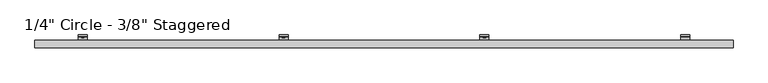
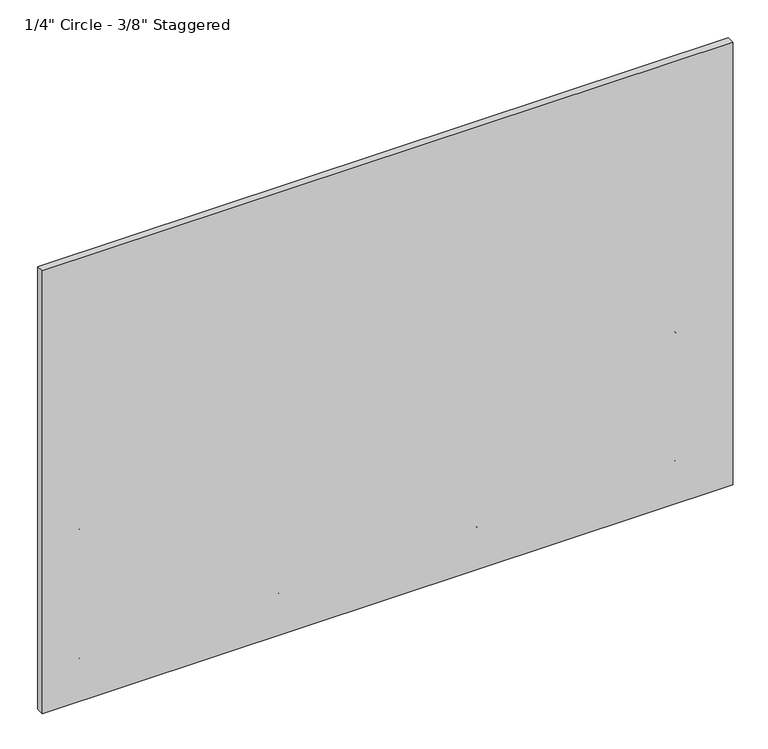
"""IFC4 building model written with IfcOpenShell, lengths in millimetres: plate geometry."""

from ifc_helpers import new_model, si_unit, point, frame, frame_2d, origin, place, context, project, spatial, polyline, circle_curve, trimmed, segment, composite_curve, outline, extrude, source, transform, mapped, element, save
from ifc_brep_helpers import plane_surface, cylinder_surface, revolved_surface, advanced_brep


def plate_3361f752(model_context):
    return source(origin(), model_context, "Body", "SolidModel", [
        advanced_brep(
        [(1259.453798, -47.625, 737.3555208), (1259.453798, -51.2819443, 729.6934884), (1259.453798, -89.5163624, 702.9214606), (1259.453798, -92.9330442, 706.3381424), (1259.453798, -54.3526876, 733.3523989), (1259.453798, -52.4002, 737.3555917), (1259.453798, -52.4002, 771.5482059), (1259.453798, -47.625, 771.5482059), (1297.553798, -47.625, 737.3555208), (1297.553798, -47.625, 771.5482059), (1297.553798, -52.4002, 771.5482059), (1297.553798, -52.4002, 737.3555917), (1297.553798, -54.3526876, 733.3523989), (1297.553798, -92.9330442, 706.3381424), (1297.553798, -89.5163624, 702.9214606), (1297.553798, -51.2819443, 729.6934884), (1285.2449869, -52.4002, 757.5029897), (1285.2449869, -52.4002, 751.1529897), (1269.0171267, -52.4002, 751.1529897), (1269.0171267, -52.4002, 757.5029897), (1285.2449869, -47.625, 751.1529897), (1285.2449869, -47.625, 757.5029897), (1269.0171267, -47.625, 757.5029897), (1269.0171267, -47.625, 751.1529897)],
        [
            (0, 1, circle_curve(frame((1259.453798, -57.4802202, 737.3555208), z_axis=(-1.0, 0.0, 0.0), x_axis=(0.0, -1.0, 0.0)), 9.8552202)),
            (1, 2),
            (2, 3),
            (3, 4),
            (4, 5, circle_curve(frame((1259.453798, -57.4803246, 737.3555917), z_axis=(1.0, 0.0, 0.0), x_axis=(0.0, -1.0, 0.0)), 5.0801246)),
            (5, 6),
            (6, 7),
            (7, 0),
            (8, 9),
            (9, 10),
            (10, 11),
            (11, 12, circle_curve(frame((1297.553798, -57.4803246, 737.3555917), z_axis=(-1.0, 0.0, 0.0), x_axis=(0.0, -1.0, 0.0)), 5.0801246)),
            (12, 13),
            (13, 14),
            (14, 15),
            (15, 8, circle_curve(frame((1297.553798, -57.4802202, 737.3555208), z_axis=(1.0, 0.0, 0.0), x_axis=(0.0, -1.0, 0.0)), 9.8552202)),
            (4, 12),
            (11, 5),
            (10, 6),
            (16, 17, circle_curve(frame((1285.2449869, -52.4002, 754.3279897), z_axis=(0.0, 1.0, 0.0), x_axis=(0.0, 0.0, -1.0)), 3.175)),
            (17, 18),
            (18, 19, circle_curve(frame((1269.0171267, -52.4002, 754.3279897), z_axis=(0.0, 1.0, 0.0), x_axis=(0.0, 0.0, -1.0)), 3.175)),
            (19, 16),
            (9, 7),
            (8, 0),
            (20, 21, circle_curve(frame((1285.2449869, -47.625, 754.3279897), z_axis=(0.0, -1.0, 0.0), x_axis=(0.0, 0.0, -1.0)), 3.175)),
            (21, 22),
            (22, 23, circle_curve(frame((1269.0171267, -47.625, 754.3279897), z_axis=(0.0, -1.0, 0.0), x_axis=(0.0, 0.0, -1.0)), 3.175)),
            (23, 20),
            (15, 1),
            (20, 17),
            (16, 21),
            (19, 22),
            (18, 23),
            (14, 2),
            (13, 3),
        ],
        [
            plane_surface(frame((1259.453798, -67.3354404, 737.3555208), z_axis=(-1.0, 0.0, 0.0), x_axis=(0.0, 0.0, 1.0))),
            plane_surface(frame((1297.553798, -67.3354404, 737.3555208), z_axis=(1.0, 0.0, 0.0), x_axis=(0.0, 0.0, -1.0))),
            revolved_surface(polyline([(1297.553798, -62.5604492, 737.3555917), (1259.453798, -62.5604492, 737.3555917)]), (1297.553798, -57.4803246, 737.3555917), (1.0, 0.0, 0.0)),
            plane_surface(frame((1259.453798, -52.4002, 737.3555917), z_axis=(0.0, -1.0, 0.0), x_axis=(1.0, 0.0, 0.0))),
            plane_surface(frame((1259.453798, -52.4002, 771.5482059), z_axis=(0.0, 0.0, 1.0), x_axis=(1.0, 0.0, 0.0))),
            plane_surface(frame((1259.453798, -47.625, 771.5482059), z_axis=(0.0, 1.0, 6.99569853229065e-12), x_axis=(1.0, 0.0, 0.0))),
            cylinder_surface(frame((1297.553798, -57.4802202, 737.3555208), z_axis=(-1.0, 0.0, 0.0), x_axis=(0.0, -1.0, 0.0)), 9.8552202),
            revolved_surface(polyline([(1285.2449869, -52.4002, 751.1529897), (1285.2449869, -47.625, 751.1529897)]), (1285.2449869, -25.6669948, 754.3279897), (0.0, -1.0, 0.0)),
            plane_surface(frame((1285.2449869, -86.677982, 757.5029897), z_axis=(0.0, 0.0, -1.0), x_axis=(0.0, 1.0, 0.0))),
            revolved_surface(polyline([(1269.0171267, -52.4002, 751.1529897), (1269.0171267, -47.625, 751.1529897)]), (1269.0171267, -25.6669948, 754.3279897), (0.0, -1.0, 0.0)),
            plane_surface(frame((1269.0171267, -86.677982, 751.1529897), z_axis=(-2.7237733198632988e-11, 0.0, 1.0), x_axis=(0.0, 1.0, 0.0))),
            plane_surface(frame((1259.453798, -51.2819443, 729.6934884), z_axis=(0.0, 0.5735764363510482, -0.8191520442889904), x_axis=(1.0, 0.0, 0.0))),
            plane_surface(frame((1259.453798, -89.5163624, 702.9214606), z_axis=(0.0, -0.7071067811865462, -0.7071067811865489), x_axis=(1.0, 0.0, 0.0))),
            plane_surface(frame((1259.453798, -92.9330442, 706.3381424), z_axis=(0.0, -0.5735764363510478, 0.8191520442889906), x_axis=(1.0, 0.0, 0.0))),
        ],
        [
            (0, [[1, 2, 3, 4, 5, 6, 7, 8]]),
            (1, [[9, 10, 11, 12, 13, 14, 15, 16]]),
            (2, [[-5, 17, -12, 18]]),
            (3, [[-6, -18, -11, 19], [20, 21, 22, 23]]),
            (4, [[-7, -19, -10, 24]]),
            (5, [[-8, -24, -9, 25], [26, 27, 28, 29]]),
            (6, [[-1, -25, -16, 30]]),
            (7, [[31, -20, 32, -26]]),
            (8, [[-32, -23, 33, -27]]),
            (9, [[-33, -22, 34, -28]]),
            (10, [[-31, -29, -34, -21]]),
            (11, [[-2, -30, -15, 35]]),
            (12, [[-3, -35, -14, 36]]),
            (13, [[-4, -36, -13, -17]]),
        ],
    ),
        extrude(outline(polyline([(754.5048329, 421.1499361), (750.1591204, 423.6589344), (750.1591204, 428.676931), (754.5048329, 431.1859292), (758.8505454, 428.676931), (758.8505454, 423.6589344), (754.5048329, 421.1499361)])), frame((0.0, -58.7607779, 0.0), z_axis=(0.0, 1.0, 0.0), x_axis=(0.0, 0.0, 1.0)), (0.0, 0.0, 1.0), 11.1357779),
        extrude(outline(composite_curve([segment(trimmed(circle_curve(frame_2d((754.5981399, 426.1679327)), 6.35), [point((754.5981399, 432.5179327))], [point((754.5981399, 419.8179327))], False, "CARTESIAN"), True, "CONTINUOUS"), segment(trimmed(circle_curve(frame_2d((754.5981399, 426.1679327)), 6.35), [point((754.5981399, 419.8179327))], [point((754.5981399, 432.5179327))], False, "CARTESIAN"), True, "CONTINUOUS")], self_intersect=False)), frame((0.0, -57.0817743, 0.0), z_axis=(0.0, 1.0, 0.0), x_axis=(0.0, 0.0, 1.0)), (0.0, 0.0, 1.0), 9.4567743),
        advanced_brep(
        [(407.1179327, -47.625, 737.3555208), (407.1179327, -51.2819443, 729.6934884), (407.1179327, -89.5163624, 702.9214606), (407.1179327, -92.9330442, 706.3381424), (407.1179327, -54.3526876, 733.3523989), (407.1179327, -52.4002, 737.3555917), (407.1179327, -52.4002, 771.5482059), (407.1179327, -47.625, 771.5482059), (445.2179327, -47.625, 737.3555208), (445.2179327, -47.625, 771.5482059), (445.2179327, -52.4002, 771.5482059), (445.2179327, -52.4002, 737.3555917), (445.2179327, -54.3526876, 733.3523989), (445.2179327, -92.9330442, 706.3381424), (445.2179327, -89.5163624, 702.9214606), (445.2179327, -51.2819443, 729.6934884), (432.9091216, -52.4002, 757.5029897), (432.9091216, -52.4002, 751.1529897), (416.6812614, -52.4002, 751.1529897), (416.6812614, -52.4002, 757.5029897), (432.9091216, -47.625, 751.1529897), (432.9091216, -47.625, 757.5029897), (416.6812614, -47.625, 757.5029897), (416.6812614, -47.625, 751.1529897)],
        [
            (0, 1, circle_curve(frame((407.1179327, -57.4802202, 737.3555208), z_axis=(-1.0, 0.0, 0.0), x_axis=(0.0, -1.0, 0.0)), 9.8552202)),
            (1, 2),
            (2, 3),
            (3, 4),
            (4, 5, circle_curve(frame((407.1179327, -57.4803246, 737.3555917), z_axis=(1.0, 0.0, 0.0), x_axis=(0.0, -1.0, 0.0)), 5.0801246)),
            (5, 6),
            (6, 7),
            (7, 0),
            (8, 9),
            (9, 10),
            (10, 11),
            (11, 12, circle_curve(frame((445.2179327, -57.4803246, 737.3555917), z_axis=(-1.0, 0.0, 0.0), x_axis=(0.0, -1.0, 0.0)), 5.0801246)),
            (12, 13),
            (13, 14),
            (14, 15),
            (15, 8, circle_curve(frame((445.2179327, -57.4802202, 737.3555208), z_axis=(1.0, 0.0, 0.0), x_axis=(0.0, -1.0, 0.0)), 9.8552202)),
            (4, 12),
            (11, 5),
            (10, 6),
            (16, 17, circle_curve(frame((432.9091216, -52.4002, 754.3279897), z_axis=(0.0, 1.0, 0.0), x_axis=(0.0, 0.0, -1.0)), 3.175)),
            (17, 18),
            (18, 19, circle_curve(frame((416.6812614, -52.4002, 754.3279897), z_axis=(0.0, 1.0, 0.0), x_axis=(0.0, 0.0, -1.0)), 3.175)),
            (19, 16),
            (9, 7),
            (8, 0),
            (20, 21, circle_curve(frame((432.9091216, -47.625, 754.3279897), z_axis=(0.0, -1.0, 0.0), x_axis=(0.0, 0.0, -1.0)), 3.175)),
            (21, 22),
            (22, 23, circle_curve(frame((416.6812614, -47.625, 754.3279897), z_axis=(0.0, -1.0, 0.0), x_axis=(0.0, 0.0, -1.0)), 3.175)),
            (23, 20),
            (15, 1),
            (20, 17),
            (16, 21),
            (19, 22),
            (18, 23),
            (14, 2),
            (13, 3),
        ],
        [
            plane_surface(frame((407.1179327, -67.3354404, 737.3555208), z_axis=(-1.0, 0.0, 0.0), x_axis=(0.0, 0.0, 1.0))),
            plane_surface(frame((445.2179327, -67.3354404, 737.3555208), z_axis=(1.0, 0.0, 0.0), x_axis=(0.0, 0.0, -1.0))),
            revolved_surface(polyline([(445.2179327, -62.5604492, 737.3555917), (407.1179327, -62.5604492, 737.3555917)]), (445.2179327, -57.4803246, 737.3555917), (1.0, 0.0, 0.0)),
            plane_surface(frame((407.1179327, -52.4002, 737.3555917), z_axis=(0.0, -1.0, 0.0), x_axis=(1.0, 0.0, 0.0))),
            plane_surface(frame((407.1179327, -52.4002, 771.5482059), z_axis=(0.0, 0.0, 1.0), x_axis=(1.0, 0.0, 0.0))),
            plane_surface(frame((407.1179327, -47.625, 771.5482059), z_axis=(0.0, 1.0, 6.99569853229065e-12), x_axis=(1.0, 0.0, 0.0))),
            cylinder_surface(frame((445.2179327, -57.4802202, 737.3555208), z_axis=(-1.0, 0.0, 0.0), x_axis=(0.0, -1.0, 0.0)), 9.8552202),
            revolved_surface(polyline([(432.9091216, -52.4002, 751.1529897), (432.9091216, -47.625, 751.1529897)]), (432.9091216, -25.6669948, 754.3279897), (0.0, -1.0, 0.0)),
            plane_surface(frame((432.9091216, -86.677982, 757.5029897), z_axis=(0.0, 0.0, -1.0), x_axis=(0.0, 1.0, 0.0))),
            revolved_surface(polyline([(416.6812614, -52.4002, 751.1529897), (416.6812614, -47.625, 751.1529897)]), (416.6812614, -25.6669948, 754.3279897), (0.0, -1.0, 0.0)),
            plane_surface(frame((416.6812614, -86.677982, 751.1529897), z_axis=(-2.7237733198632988e-11, 0.0, 1.0), x_axis=(0.0, 1.0, 0.0))),
            plane_surface(frame((407.1179327, -51.2819443, 729.6934884), z_axis=(0.0, 0.5735764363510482, -0.8191520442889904), x_axis=(1.0, 0.0, 0.0))),
            plane_surface(frame((407.1179327, -89.5163624, 702.9214606), z_axis=(0.0, -0.7071067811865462, -0.7071067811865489), x_axis=(1.0, 0.0, 0.0))),
            plane_surface(frame((407.1179327, -92.9330442, 706.3381424), z_axis=(0.0, -0.5735764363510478, 0.8191520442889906), x_axis=(1.0, 0.0, 0.0))),
        ],
        [
            (0, [[1, 2, 3, 4, 5, 6, 7, 8]]),
            (1, [[9, 10, 11, 12, 13, 14, 15, 16]]),
            (2, [[-5, 17, -12, 18]]),
            (3, [[-6, -18, -11, 19], [20, 21, 22, 23]]),
            (4, [[-7, -19, -10, 24]]),
            (5, [[-8, -24, -9, 25], [26, 27, 28, 29]]),
            (6, [[-1, -25, -16, 30]]),
            (7, [[31, -20, 32, -26]]),
            (8, [[-32, -23, 33, -27]]),
            (9, [[-33, -22, 34, -28]]),
            (10, [[-31, -29, -34, -21]]),
            (11, [[-2, -30, -15, 35]]),
            (12, [[-3, -35, -14, 36]]),
            (13, [[-4, -36, -13, -17]]),
        ],
    ),
        extrude(outline(polyline([(754.5048329, -431.1859292), (750.1591204, -428.676931), (750.1591204, -423.6589344), (754.5048329, -421.1499361), (758.8505454, -423.6589344), (758.8505454, -428.676931), (754.5048329, -431.1859292)])), frame((0.0, -58.7607779, 0.0), z_axis=(0.0, 1.0, 0.0), x_axis=(0.0, 0.0, 1.0)), (0.0, 0.0, 1.0), 11.1357779),
        extrude(outline(composite_curve([segment(trimmed(circle_curve(frame_2d((754.5981399, -426.1679327)), 6.35), [point((754.5981399, -419.8179327))], [point((754.5981399, -432.5179327))], False, "CARTESIAN"), True, "CONTINUOUS"), segment(trimmed(circle_curve(frame_2d((754.5981399, -426.1679327)), 6.35), [point((754.5981399, -432.5179327))], [point((754.5981399, -419.8179327))], False, "CARTESIAN"), True, "CONTINUOUS")], self_intersect=False)), frame((0.0, -57.0817743, 0.0), z_axis=(0.0, 1.0, 0.0), x_axis=(0.0, 0.0, 1.0)), (0.0, 0.0, 1.0), 9.4567743),
        advanced_brep(
        [(-445.2179327, -47.625, 737.3555208), (-445.2179327, -51.2819443, 729.6934884), (-445.2179327, -89.5163624, 702.9214606), (-445.2179327, -92.9330442, 706.3381424), (-445.2179327, -54.3526876, 733.3523989), (-445.2179327, -52.4002, 737.3555917), (-445.2179327, -52.4002, 771.5482059), (-445.2179327, -47.625, 771.5482059), (-407.1179327, -47.625, 737.3555208), (-407.1179327, -47.625, 771.5482059), (-407.1179327, -52.4002, 771.5482059), (-407.1179327, -52.4002, 737.3555917), (-407.1179327, -54.3526876, 733.3523989), (-407.1179327, -92.9330442, 706.3381424), (-407.1179327, -89.5163624, 702.9214606), (-407.1179327, -51.2819443, 729.6934884), (-419.4267438, -52.4002, 757.5029897), (-419.4267438, -52.4002, 751.1529897), (-435.654604, -52.4002, 751.1529897), (-435.654604, -52.4002, 757.5029897), (-419.4267438, -47.625, 751.1529897), (-419.4267438, -47.625, 757.5029897), (-435.654604, -47.625, 757.5029897), (-435.654604, -47.625, 751.1529897)],
        [
            (0, 1, circle_curve(frame((-445.2179327, -57.4802202, 737.3555208), z_axis=(-1.0, 0.0, 0.0), x_axis=(0.0, -1.0, 0.0)), 9.8552202)),
            (1, 2),
            (2, 3),
            (3, 4),
            (4, 5, circle_curve(frame((-445.2179327, -57.4803246, 737.3555917), z_axis=(1.0, 0.0, 0.0), x_axis=(0.0, -1.0, 0.0)), 5.0801246)),
            (5, 6),
            (6, 7),
            (7, 0),
            (8, 9),
            (9, 10),
            (10, 11),
            (11, 12, circle_curve(frame((-407.1179327, -57.4803246, 737.3555917), z_axis=(-1.0, 0.0, 0.0), x_axis=(0.0, -1.0, 0.0)), 5.0801246)),
            (12, 13),
            (13, 14),
            (14, 15),
            (15, 8, circle_curve(frame((-407.1179327, -57.4802202, 737.3555208), z_axis=(1.0, 0.0, 0.0), x_axis=(0.0, -1.0, 0.0)), 9.8552202)),
            (4, 12),
            (11, 5),
            (10, 6),
            (16, 17, circle_curve(frame((-419.4267438, -52.4002, 754.3279897), z_axis=(0.0, 1.0, 0.0), x_axis=(0.0, 0.0, -1.0)), 3.175)),
            (17, 18),
            (18, 19, circle_curve(frame((-435.654604, -52.4002, 754.3279897), z_axis=(0.0, 1.0, 0.0), x_axis=(0.0, 0.0, -1.0)), 3.175)),
            (19, 16),
            (9, 7),
            (8, 0),
            (20, 21, circle_curve(frame((-419.4267438, -47.625, 754.3279897), z_axis=(0.0, -1.0, 0.0), x_axis=(0.0, 0.0, -1.0)), 3.175)),
            (21, 22),
            (22, 23, circle_curve(frame((-435.654604, -47.625, 754.3279897), z_axis=(0.0, -1.0, 0.0), x_axis=(0.0, 0.0, -1.0)), 3.175)),
            (23, 20),
            (15, 1),
            (20, 17),
            (16, 21),
            (19, 22),
            (18, 23),
            (14, 2),
            (13, 3),
        ],
        [
            plane_surface(frame((-445.2179327, -67.3354404, 737.3555208), z_axis=(-1.0, 0.0, 0.0), x_axis=(0.0, 0.0, 1.0))),
            plane_surface(frame((-407.1179327, -67.3354404, 737.3555208), z_axis=(1.0, 0.0, 0.0), x_axis=(0.0, 0.0, -1.0))),
            revolved_surface(polyline([(-407.1179327, -62.5604492, 737.3555917), (-445.2179327, -62.5604492, 737.3555917)]), (-407.1179327, -57.4803246, 737.3555917), (1.0, 0.0, 0.0)),
            plane_surface(frame((-445.2179327, -52.4002, 737.3555917), z_axis=(0.0, -1.0, 0.0), x_axis=(1.0, 0.0, 0.0))),
            plane_surface(frame((-445.2179327, -52.4002, 771.5482059), z_axis=(0.0, 0.0, 1.0), x_axis=(1.0, 0.0, 0.0))),
            plane_surface(frame((-445.2179327, -47.625, 771.5482059), z_axis=(0.0, 1.0, 6.99569853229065e-12), x_axis=(1.0, 0.0, 0.0))),
            cylinder_surface(frame((-407.1179327, -57.4802202, 737.3555208), z_axis=(-1.0, 0.0, 0.0), x_axis=(0.0, -1.0, 0.0)), 9.8552202),
            revolved_surface(polyline([(-419.4267438, -52.4002, 751.1529897), (-419.4267438, -47.625, 751.1529897)]), (-419.4267438, -25.6669948, 754.3279897), (0.0, -1.0, 0.0)),
            plane_surface(frame((-419.4267438, -86.677982, 757.5029897), z_axis=(0.0, 0.0, -1.0), x_axis=(0.0, 1.0, 0.0))),
            revolved_surface(polyline([(-435.654604, -52.4002, 751.1529897), (-435.654604, -47.625, 751.1529897)]), (-435.654604, -25.6669948, 754.3279897), (0.0, -1.0, 0.0)),
            plane_surface(frame((-435.654604, -86.677982, 751.1529897), z_axis=(-2.7237733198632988e-11, 0.0, 1.0), x_axis=(0.0, 1.0, 0.0))),
            plane_surface(frame((-445.2179327, -51.2819443, 729.6934884), z_axis=(0.0, 0.5735764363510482, -0.8191520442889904), x_axis=(1.0, 0.0, 0.0))),
            plane_surface(frame((-445.2179327, -89.5163624, 702.9214606), z_axis=(0.0, -0.7071067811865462, -0.7071067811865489), x_axis=(1.0, 0.0, 0.0))),
            plane_surface(frame((-445.2179327, -92.9330442, 706.3381424), z_axis=(0.0, -0.5735764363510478, 0.8191520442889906), x_axis=(1.0, 0.0, 0.0))),
        ],
        [
            (0, [[1, 2, 3, 4, 5, 6, 7, 8]]),
            (1, [[9, 10, 11, 12, 13, 14, 15, 16]]),
            (2, [[-5, 17, -12, 18]]),
            (3, [[-6, -18, -11, 19], [20, 21, 22, 23]]),
            (4, [[-7, -19, -10, 24]]),
            (5, [[-8, -24, -9, 25], [26, 27, 28, 29]]),
            (6, [[-1, -25, -16, 30]]),
            (7, [[31, -20, 32, -26]]),
            (8, [[-32, -23, 33, -27]]),
            (9, [[-33, -22, 34, -28]]),
            (10, [[-31, -29, -34, -21]]),
            (11, [[-2, -30, -15, 35]]),
            (12, [[-3, -35, -14, 36]]),
            (13, [[-4, -36, -13, -17]]),
        ],
    ),
        extrude(outline(polyline([(754.5048329, -1283.5217946), (750.1591204, -1281.0127963), (750.1591204, -1275.9947997), (754.5048329, -1273.4858014), (758.8505454, -1275.9947997), (758.8505454, -1281.0127963), (754.5048329, -1283.5217946)])), frame((0.0, -58.7607779, 0.0), z_axis=(0.0, 1.0, 0.0), x_axis=(0.0, 0.0, 1.0)), (0.0, 0.0, 1.0), 11.1357779),
        extrude(outline(composite_curve([segment(trimmed(circle_curve(frame_2d((754.5981399, -1278.503798)), 6.35), [point((754.5981399, -1272.153798))], [point((754.5981399, -1284.853798))], False, "CARTESIAN"), True, "CONTINUOUS"), segment(trimmed(circle_curve(frame_2d((754.5981399, -1278.503798)), 6.35), [point((754.5981399, -1284.853798))], [point((754.5981399, -1272.153798))], False, "CARTESIAN"), True, "CONTINUOUS")], self_intersect=False)), frame((0.0, -57.0817743, 0.0), z_axis=(0.0, 1.0, 0.0), x_axis=(0.0, 0.0, 1.0)), (0.0, 0.0, 1.0), 9.4567743),
        advanced_brep(
        [(-1297.553798, -47.625, 737.3555208), (-1297.553798, -51.2819443, 729.6934884), (-1297.553798, -89.5163624, 702.9214606), (-1297.553798, -92.9330442, 706.3381424), (-1297.553798, -54.3526876, 733.3523989), (-1297.553798, -52.4002, 737.3555917), (-1297.553798, -52.4002, 771.5482059), (-1297.553798, -47.625, 771.5482059), (-1259.453798, -47.625, 737.3555208), (-1259.453798, -47.625, 771.5482059), (-1259.453798, -52.4002, 771.5482059), (-1259.453798, -52.4002, 737.3555917), (-1259.453798, -54.3526876, 733.3523989), (-1259.453798, -92.9330442, 706.3381424), (-1259.453798, -89.5163624, 702.9214606), (-1259.453798, -51.2819443, 729.6934884), (-1271.7626091, -52.4002, 757.5029897), (-1271.7626091, -52.4002, 751.1529897), (-1287.9904693, -52.4002, 751.1529897), (-1287.9904693, -52.4002, 757.5029897), (-1271.7626091, -47.625, 751.1529897), (-1271.7626091, -47.625, 757.5029897), (-1287.9904693, -47.625, 757.5029897), (-1287.9904693, -47.625, 751.1529897)],
        [
            (0, 1, circle_curve(frame((-1297.553798, -57.4802202, 737.3555208), z_axis=(-1.0, 0.0, 0.0), x_axis=(0.0, -1.0, 0.0)), 9.8552202)),
            (1, 2),
            (2, 3),
            (3, 4),
            (4, 5, circle_curve(frame((-1297.553798, -57.4803246, 737.3555917), z_axis=(1.0, 0.0, 0.0), x_axis=(0.0, -1.0, 0.0)), 5.0801246)),
            (5, 6),
            (6, 7),
            (7, 0),
            (8, 9),
            (9, 10),
            (10, 11),
            (11, 12, circle_curve(frame((-1259.453798, -57.4803246, 737.3555917), z_axis=(-1.0, 0.0, 0.0), x_axis=(0.0, -1.0, 0.0)), 5.0801246)),
            (12, 13),
            (13, 14),
            (14, 15),
            (15, 8, circle_curve(frame((-1259.453798, -57.4802202, 737.3555208), z_axis=(1.0, 0.0, 0.0), x_axis=(0.0, -1.0, 0.0)), 9.8552202)),
            (4, 12),
            (11, 5),
            (10, 6),
            (16, 17, circle_curve(frame((-1271.7626091, -52.4002, 754.3279897), z_axis=(0.0, 1.0, 0.0), x_axis=(0.0, 0.0, -1.0)), 3.175)),
            (17, 18),
            (18, 19, circle_curve(frame((-1287.9904693, -52.4002, 754.3279897), z_axis=(0.0, 1.0, 0.0), x_axis=(0.0, 0.0, -1.0)), 3.175)),
            (19, 16),
            (9, 7),
            (8, 0),
            (20, 21, circle_curve(frame((-1271.7626091, -47.625, 754.3279897), z_axis=(0.0, -1.0, 0.0), x_axis=(0.0, 0.0, -1.0)), 3.175)),
            (21, 22),
            (22, 23, circle_curve(frame((-1287.9904693, -47.625, 754.3279897), z_axis=(0.0, -1.0, 0.0), x_axis=(0.0, 0.0, -1.0)), 3.175)),
            (23, 20),
            (15, 1),
            (20, 17),
            (16, 21),
            (19, 22),
            (18, 23),
            (14, 2),
            (13, 3),
        ],
        [
            plane_surface(frame((-1297.553798, -67.3354404, 737.3555208), z_axis=(-1.0, 0.0, 0.0), x_axis=(0.0, 0.0, 1.0))),
            plane_surface(frame((-1259.453798, -67.3354404, 737.3555208), z_axis=(1.0, 0.0, 0.0), x_axis=(0.0, 0.0, -1.0))),
            revolved_surface(polyline([(-1259.453798, -62.5604492, 737.3555917), (-1297.553798, -62.5604492, 737.3555917)]), (-1259.453798, -57.4803246, 737.3555917), (1.0, 0.0, 0.0)),
            plane_surface(frame((-1297.553798, -52.4002, 737.3555917), z_axis=(0.0, -1.0, 0.0), x_axis=(1.0, 0.0, 0.0))),
            plane_surface(frame((-1297.553798, -52.4002, 771.5482059), z_axis=(0.0, 0.0, 1.0), x_axis=(1.0, 0.0, 0.0))),
            plane_surface(frame((-1297.553798, -47.625, 771.5482059), z_axis=(0.0, 1.0, 6.99569853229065e-12), x_axis=(1.0, 0.0, 0.0))),
            cylinder_surface(frame((-1259.453798, -57.4802202, 737.3555208), z_axis=(-1.0, 0.0, 0.0), x_axis=(0.0, -1.0, 0.0)), 9.8552202),
            revolved_surface(polyline([(-1271.7626091, -52.4002, 751.1529897), (-1271.7626091, -47.625, 751.1529897)]), (-1271.7626091, -25.6669948, 754.3279897), (0.0, -1.0, 0.0)),
            plane_surface(frame((-1271.7626091, -86.677982, 757.5029897), z_axis=(0.0, 0.0, -1.0), x_axis=(0.0, 1.0, 0.0))),
            revolved_surface(polyline([(-1287.9904693, -52.4002, 751.1529897), (-1287.9904693, -47.625, 751.1529897)]), (-1287.9904693, -25.6669948, 754.3279897), (0.0, -1.0, 0.0)),
            plane_surface(frame((-1287.9904693, -86.677982, 751.1529897), z_axis=(-2.7237733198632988e-11, 0.0, 1.0), x_axis=(0.0, 1.0, 0.0))),
            plane_surface(frame((-1297.553798, -51.2819443, 729.6934884), z_axis=(0.0, 0.5735764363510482, -0.8191520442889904), x_axis=(1.0, 0.0, 0.0))),
            plane_surface(frame((-1297.553798, -89.5163624, 702.9214606), z_axis=(0.0, -0.7071067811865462, -0.7071067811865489), x_axis=(1.0, 0.0, 0.0))),
            plane_surface(frame((-1297.553798, -92.9330442, 706.3381424), z_axis=(0.0, -0.5735764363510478, 0.8191520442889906), x_axis=(1.0, 0.0, 0.0))),
        ],
        [
            (0, [[1, 2, 3, 4, 5, 6, 7, 8]]),
            (1, [[9, 10, 11, 12, 13, 14, 15, 16]]),
            (2, [[-5, 17, -12, 18]]),
            (3, [[-6, -18, -11, 19], [20, 21, 22, 23]]),
            (4, [[-7, -19, -10, 24]]),
            (5, [[-8, -24, -9, 25], [26, 27, 28, 29]]),
            (6, [[-1, -25, -16, 30]]),
            (7, [[31, -20, 32, -26]]),
            (8, [[-32, -23, 33, -27]]),
            (9, [[-33, -22, 34, -28]]),
            (10, [[-31, -29, -34, -21]]),
            (11, [[-2, -30, -15, 35]]),
            (12, [[-3, -35, -14, 36]]),
            (13, [[-4, -36, -13, -17]]),
        ],
    ),
        extrude(outline(polyline([(169.8795323, 1273.4858014), (165.5338197, 1275.9947997), (165.5338197, 1281.0127963), (169.8795323, 1283.5217946), (174.2252448, 1281.0127963), (174.2252448, 1275.9947997), (169.8795323, 1273.4858014)])), frame((0.0, -58.7607779, 0.0), z_axis=(0.0, 1.0, 0.0), x_axis=(0.0, 0.0, 1.0)), (0.0, 0.0, 1.0), 11.1357779),
        extrude(outline(composite_curve([segment(trimmed(circle_curve(frame_2d((169.9728392, 1278.503798)), 6.35), [point((169.9728392, 1284.853798))], [point((169.9728392, 1272.153798))], False, "CARTESIAN"), True, "CONTINUOUS"), segment(trimmed(circle_curve(frame_2d((169.9728392, 1278.503798)), 6.35), [point((169.9728392, 1272.153798))], [point((169.9728392, 1284.853798))], False, "CARTESIAN"), True, "CONTINUOUS")], self_intersect=False)), frame((0.0, -57.0817743, 0.0), z_axis=(0.0, 1.0, 0.0), x_axis=(0.0, 0.0, 1.0)), (0.0, 0.0, 1.0), 9.4567743),
        advanced_brep(
        [(1259.453798, -47.625, 152.7302202), (1259.453798, -51.2819443, 145.0681877), (1259.453798, -89.5163624, 118.29616), (1259.453798, -92.9330442, 121.7128418), (1259.453798, -54.3526876, 148.7270983), (1259.453798, -52.4002, 152.7302911), (1259.453798, -52.4002, 186.9229053), (1259.453798, -47.625, 186.9229053), (1297.553798, -47.625, 152.7302202), (1297.553798, -47.625, 186.9229053), (1297.553798, -52.4002, 186.9229053), (1297.553798, -52.4002, 152.7302911), (1297.553798, -54.3526876, 148.7270983), (1297.553798, -92.9330442, 121.7128418), (1297.553798, -89.5163624, 118.29616), (1297.553798, -51.2819443, 145.0681877), (1285.2449869, -52.4002, 172.8776891), (1285.2449869, -52.4002, 166.5276891), (1269.0171267, -52.4002, 166.5276891), (1269.0171267, -52.4002, 172.8776891), (1285.2449869, -47.625, 166.5276891), (1285.2449869, -47.625, 172.8776891), (1269.0171267, -47.625, 172.8776891), (1269.0171267, -47.625, 166.5276891)],
        [
            (0, 1, circle_curve(frame((1259.453798, -57.4802202, 152.7302202), z_axis=(-1.0, 0.0, 0.0), x_axis=(0.0, -1.0, 0.0)), 9.8552202)),
            (1, 2),
            (2, 3),
            (3, 4),
            (4, 5, circle_curve(frame((1259.453798, -57.4803246, 152.7302911), z_axis=(1.0, 0.0, 0.0), x_axis=(0.0, -1.0, 0.0)), 5.0801246)),
            (5, 6),
            (6, 7),
            (7, 0),
            (8, 9),
            (9, 10),
            (10, 11),
            (11, 12, circle_curve(frame((1297.553798, -57.4803246, 152.7302911), z_axis=(-1.0, 0.0, 0.0), x_axis=(0.0, -1.0, 0.0)), 5.0801246)),
            (12, 13),
            (13, 14),
            (14, 15),
            (15, 8, circle_curve(frame((1297.553798, -57.4802202, 152.7302202), z_axis=(1.0, 0.0, 0.0), x_axis=(0.0, -1.0, 0.0)), 9.8552202)),
            (4, 12),
            (11, 5),
            (10, 6),
            (16, 17, circle_curve(frame((1285.2449869, -52.4002, 169.7026891), z_axis=(0.0, 1.0, 0.0), x_axis=(0.0, 0.0, -1.0)), 3.175)),
            (17, 18),
            (18, 19, circle_curve(frame((1269.0171267, -52.4002, 169.7026891), z_axis=(0.0, 1.0, 0.0), x_axis=(0.0, 0.0, -1.0)), 3.175)),
            (19, 16),
            (9, 7),
            (8, 0),
            (20, 21, circle_curve(frame((1285.2449869, -47.625, 169.7026891), z_axis=(0.0, -1.0, 0.0), x_axis=(0.0, 0.0, -1.0)), 3.175)),
            (21, 22),
            (22, 23, circle_curve(frame((1269.0171267, -47.625, 169.7026891), z_axis=(0.0, -1.0, 0.0), x_axis=(0.0, 0.0, -1.0)), 3.175)),
            (23, 20),
            (15, 1),
            (20, 17),
            (16, 21),
            (19, 22),
            (18, 23),
            (14, 2),
            (13, 3),
        ],
        [
            plane_surface(frame((1259.453798, -67.3354404, 152.7302202), z_axis=(-1.0, 0.0, 0.0), x_axis=(0.0, 0.0, 1.0))),
            plane_surface(frame((1297.553798, -67.3354404, 152.7302202), z_axis=(1.0, 0.0, 0.0), x_axis=(0.0, 0.0, -1.0))),
            revolved_surface(polyline([(1297.553798, -62.5604492, 152.7302911), (1259.453798, -62.5604492, 152.7302911)]), (1297.553798, -57.4803246, 152.7302911), (1.0, 0.0, 0.0)),
            plane_surface(frame((1259.453798, -52.4002, 152.7302911), z_axis=(0.0, -1.0, 0.0), x_axis=(1.0, 0.0, 0.0))),
            plane_surface(frame((1259.453798, -52.4002, 186.9229053), z_axis=(0.0, 0.0, 1.0), x_axis=(1.0, 0.0, 0.0))),
            plane_surface(frame((1259.453798, -47.625, 186.9229053), z_axis=(0.0, 1.0, 6.99569853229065e-12), x_axis=(1.0, 0.0, 0.0))),
            cylinder_surface(frame((1297.553798, -57.4802202, 152.7302202), z_axis=(-1.0, 0.0, 0.0), x_axis=(0.0, -1.0, 0.0)), 9.8552202),
            revolved_surface(polyline([(1285.2449869, -52.4002, 166.52768909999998), (1285.2449869, -47.625, 166.52768909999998)]), (1285.2449869, -25.6669948, 169.7026891), (0.0, -1.0, 0.0)),
            plane_surface(frame((1285.2449869, -86.677982, 172.8776891), z_axis=(0.0, 0.0, -1.0), x_axis=(0.0, 1.0, 0.0))),
            revolved_surface(polyline([(1269.0171267, -52.4002, 166.52768909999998), (1269.0171267, -47.625, 166.52768909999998)]), (1269.0171267, -25.6669948, 169.7026891), (0.0, -1.0, 0.0)),
            plane_surface(frame((1269.0171267, -86.677982, 166.5276891), z_axis=(-2.723774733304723e-11, 0.0, 1.0), x_axis=(0.0, 1.0, 0.0))),
            plane_surface(frame((1259.453798, -51.2819443, 145.0681877), z_axis=(0.0, 0.5735764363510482, -0.8191520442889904), x_axis=(1.0, 0.0, 0.0))),
            plane_surface(frame((1259.453798, -89.5163624, 118.29616), z_axis=(0.0, -0.7071067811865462, -0.7071067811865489), x_axis=(1.0, 0.0, 0.0))),
            plane_surface(frame((1259.453798, -92.9330442, 121.7128418), z_axis=(0.0, -0.5735764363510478, 0.8191520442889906), x_axis=(1.0, 0.0, 0.0))),
        ],
        [
            (0, [[1, 2, 3, 4, 5, 6, 7, 8]]),
            (1, [[9, 10, 11, 12, 13, 14, 15, 16]]),
            (2, [[-5, 17, -12, 18]]),
            (3, [[-6, -18, -11, 19], [20, 21, 22, 23]]),
            (4, [[-7, -19, -10, 24]]),
            (5, [[-8, -24, -9, 25], [26, 27, 28, 29]]),
            (6, [[-1, -25, -16, 30]]),
            (7, [[31, -20, 32, -26]]),
            (8, [[-32, -23, 33, -27]]),
            (9, [[-33, -22, 34, -28]]),
            (10, [[-31, -29, -34, -21]]),
            (11, [[-2, -30, -15, 35]]),
            (12, [[-3, -35, -14, 36]]),
            (13, [[-4, -36, -13, -17]]),
        ],
    ),
        extrude(outline(polyline([(169.8795323, 421.1499361), (165.5338197, 423.6589344), (165.5338197, 428.676931), (169.8795323, 431.1859292), (174.2252448, 428.676931), (174.2252448, 423.6589344), (169.8795323, 421.1499361)])), frame((0.0, -58.7607779, 0.0), z_axis=(0.0, 1.0, 0.0), x_axis=(0.0, 0.0, 1.0)), (0.0, 0.0, 1.0), 11.1357779),
        extrude(outline(composite_curve([segment(trimmed(circle_curve(frame_2d((169.9728392, 426.1679327)), 6.35), [point((169.9728392, 432.5179327))], [point((169.9728392, 419.8179327))], False, "CARTESIAN"), True, "CONTINUOUS"), segment(trimmed(circle_curve(frame_2d((169.9728392, 426.1679327)), 6.35), [point((169.9728392, 419.8179327))], [point((169.9728392, 432.5179327))], False, "CARTESIAN"), True, "CONTINUOUS")], self_intersect=False)), frame((0.0, -57.0817743, 0.0), z_axis=(0.0, 1.0, 0.0), x_axis=(0.0, 0.0, 1.0)), (0.0, 0.0, 1.0), 9.4567743),
        advanced_brep(
        [(407.1179327, -47.625, 152.7302202), (407.1179327, -51.2819443, 145.0681877), (407.1179327, -89.5163624, 118.29616), (407.1179327, -92.9330442, 121.7128418), (407.1179327, -54.3526876, 148.7270983), (407.1179327, -52.4002, 152.7302911), (407.1179327, -52.4002, 186.9229053), (407.1179327, -47.625, 186.9229053), (445.2179327, -47.625, 152.7302202), (445.2179327, -47.625, 186.9229053), (445.2179327, -52.4002, 186.9229053), (445.2179327, -52.4002, 152.7302911), (445.2179327, -54.3526876, 148.7270983), (445.2179327, -92.9330442, 121.7128418), (445.2179327, -89.5163624, 118.29616), (445.2179327, -51.2819443, 145.0681877), (432.9091216, -52.4002, 172.8776891), (432.9091216, -52.4002, 166.5276891), (416.6812614, -52.4002, 166.5276891), (416.6812614, -52.4002, 172.8776891), (432.9091216, -47.625, 166.5276891), (432.9091216, -47.625, 172.8776891), (416.6812614, -47.625, 172.8776891), (416.6812614, -47.625, 166.5276891)],
        [
            (0, 1, circle_curve(frame((407.1179327, -57.4802202, 152.7302202), z_axis=(-1.0, 0.0, 0.0), x_axis=(0.0, -1.0, 0.0)), 9.8552202)),
            (1, 2),
            (2, 3),
            (3, 4),
            (4, 5, circle_curve(frame((407.1179327, -57.4803246, 152.7302911), z_axis=(1.0, 0.0, 0.0), x_axis=(0.0, -1.0, 0.0)), 5.0801246)),
            (5, 6),
            (6, 7),
            (7, 0),
            (8, 9),
            (9, 10),
            (10, 11),
            (11, 12, circle_curve(frame((445.2179327, -57.4803246, 152.7302911), z_axis=(-1.0, 0.0, 0.0), x_axis=(0.0, -1.0, 0.0)), 5.0801246)),
            (12, 13),
            (13, 14),
            (14, 15),
            (15, 8, circle_curve(frame((445.2179327, -57.4802202, 152.7302202), z_axis=(1.0, 0.0, 0.0), x_axis=(0.0, -1.0, 0.0)), 9.8552202)),
            (4, 12),
            (11, 5),
            (10, 6),
            (16, 17, circle_curve(frame((432.9091216, -52.4002, 169.7026891), z_axis=(0.0, 1.0, 0.0), x_axis=(0.0, 0.0, -1.0)), 3.175)),
            (17, 18),
            (18, 19, circle_curve(frame((416.6812614, -52.4002, 169.7026891), z_axis=(0.0, 1.0, 0.0), x_axis=(0.0, 0.0, -1.0)), 3.175)),
            (19, 16),
            (9, 7),
            (8, 0),
            (20, 21, circle_curve(frame((432.9091216, -47.625, 169.7026891), z_axis=(0.0, -1.0, 0.0), x_axis=(0.0, 0.0, -1.0)), 3.175)),
            (21, 22),
            (22, 23, circle_curve(frame((416.6812614, -47.625, 169.7026891), z_axis=(0.0, -1.0, 0.0), x_axis=(0.0, 0.0, -1.0)), 3.175)),
            (23, 20),
            (15, 1),
            (20, 17),
            (16, 21),
            (19, 22),
            (18, 23),
            (14, 2),
            (13, 3),
        ],
        [
            plane_surface(frame((407.1179327, -67.3354404, 152.7302202), z_axis=(-1.0, 0.0, 0.0), x_axis=(0.0, 0.0, 1.0))),
            plane_surface(frame((445.2179327, -67.3354404, 152.7302202), z_axis=(1.0, 0.0, 0.0), x_axis=(0.0, 0.0, -1.0))),
            revolved_surface(polyline([(445.2179327, -62.5604492, 152.7302911), (407.1179327, -62.5604492, 152.7302911)]), (445.2179327, -57.4803246, 152.7302911), (1.0, 0.0, 0.0)),
            plane_surface(frame((407.1179327, -52.4002, 152.7302911), z_axis=(0.0, -1.0, 0.0), x_axis=(1.0, 0.0, 0.0))),
            plane_surface(frame((407.1179327, -52.4002, 186.9229053), z_axis=(0.0, 0.0, 1.0), x_axis=(1.0, 0.0, 0.0))),
            plane_surface(frame((407.1179327, -47.625, 186.9229053), z_axis=(0.0, 1.0, 6.99569853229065e-12), x_axis=(1.0, 0.0, 0.0))),
            cylinder_surface(frame((445.2179327, -57.4802202, 152.7302202), z_axis=(-1.0, 0.0, 0.0), x_axis=(0.0, -1.0, 0.0)), 9.8552202),
            revolved_surface(polyline([(432.9091216, -52.4002, 166.52768909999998), (432.9091216, -47.625, 166.52768909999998)]), (432.9091216, -25.6669948, 169.7026891), (0.0, -1.0, 0.0)),
            plane_surface(frame((432.9091216, -86.677982, 172.8776891), z_axis=(0.0, 0.0, -1.0), x_axis=(0.0, 1.0, 0.0))),
            revolved_surface(polyline([(416.6812614, -52.4002, 166.52768909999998), (416.6812614, -47.625, 166.52768909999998)]), (416.6812614, -25.6669948, 169.7026891), (0.0, -1.0, 0.0)),
            plane_surface(frame((416.6812614, -86.677982, 166.5276891), z_axis=(-2.723774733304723e-11, 0.0, 1.0), x_axis=(0.0, 1.0, 0.0))),
            plane_surface(frame((407.1179327, -51.2819443, 145.0681877), z_axis=(0.0, 0.5735764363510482, -0.8191520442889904), x_axis=(1.0, 0.0, 0.0))),
            plane_surface(frame((407.1179327, -89.5163624, 118.29616), z_axis=(0.0, -0.7071067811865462, -0.7071067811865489), x_axis=(1.0, 0.0, 0.0))),
            plane_surface(frame((407.1179327, -92.9330442, 121.7128418), z_axis=(0.0, -0.5735764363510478, 0.8191520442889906), x_axis=(1.0, 0.0, 0.0))),
        ],
        [
            (0, [[1, 2, 3, 4, 5, 6, 7, 8]]),
            (1, [[9, 10, 11, 12, 13, 14, 15, 16]]),
            (2, [[-5, 17, -12, 18]]),
            (3, [[-6, -18, -11, 19], [20, 21, 22, 23]]),
            (4, [[-7, -19, -10, 24]]),
            (5, [[-8, -24, -9, 25], [26, 27, 28, 29]]),
            (6, [[-1, -25, -16, 30]]),
            (7, [[31, -20, 32, -26]]),
            (8, [[-32, -23, 33, -27]]),
            (9, [[-33, -22, 34, -28]]),
            (10, [[-31, -29, -34, -21]]),
            (11, [[-2, -30, -15, 35]]),
            (12, [[-3, -35, -14, 36]]),
            (13, [[-4, -36, -13, -17]]),
        ],
    ),
        extrude(outline(polyline([(169.8795323, -431.1859292), (165.5338197, -428.676931), (165.5338197, -423.6589344), (169.8795323, -421.1499361), (174.2252448, -423.6589344), (174.2252448, -428.676931), (169.8795323, -431.1859292)])), frame((0.0, -58.7607779, 0.0), z_axis=(0.0, 1.0, 0.0), x_axis=(0.0, 0.0, 1.0)), (0.0, 0.0, 1.0), 11.1357779),
        extrude(outline(composite_curve([segment(trimmed(circle_curve(frame_2d((169.9728392, -426.1679327)), 6.35), [point((169.9728392, -419.8179327))], [point((169.9728392, -432.5179327))], False, "CARTESIAN"), True, "CONTINUOUS"), segment(trimmed(circle_curve(frame_2d((169.9728392, -426.1679327)), 6.35), [point((169.9728392, -432.5179327))], [point((169.9728392, -419.8179327))], False, "CARTESIAN"), True, "CONTINUOUS")], self_intersect=False)), frame((0.0, -57.0817743, 0.0), z_axis=(0.0, 1.0, 0.0), x_axis=(0.0, 0.0, 1.0)), (0.0, 0.0, 1.0), 9.4567743),
        advanced_brep(
        [(-445.2179327, -47.625, 152.7302202), (-445.2179327, -51.2819443, 145.0681877), (-445.2179327, -89.5163624, 118.29616), (-445.2179327, -92.9330442, 121.7128418), (-445.2179327, -54.3526876, 148.7270983), (-445.2179327, -52.4002, 152.7302911), (-445.2179327, -52.4002, 186.9229053), (-445.2179327, -47.625, 186.9229053), (-407.1179327, -47.625, 152.7302202), (-407.1179327, -47.625, 186.9229053), (-407.1179327, -52.4002, 186.9229053), (-407.1179327, -52.4002, 152.7302911), (-407.1179327, -54.3526876, 148.7270983), (-407.1179327, -92.9330442, 121.7128418), (-407.1179327, -89.5163624, 118.29616), (-407.1179327, -51.2819443, 145.0681877), (-419.4267438, -52.4002, 172.8776891), (-419.4267438, -52.4002, 166.5276891), (-435.654604, -52.4002, 166.5276891), (-435.654604, -52.4002, 172.8776891), (-419.4267438, -47.625, 166.5276891), (-419.4267438, -47.625, 172.8776891), (-435.654604, -47.625, 172.8776891), (-435.654604, -47.625, 166.5276891)],
        [
            (0, 1, circle_curve(frame((-445.2179327, -57.4802202, 152.7302202), z_axis=(-1.0, 0.0, 0.0), x_axis=(0.0, -1.0, 0.0)), 9.8552202)),
            (1, 2),
            (2, 3),
            (3, 4),
            (4, 5, circle_curve(frame((-445.2179327, -57.4803246, 152.7302911), z_axis=(1.0, 0.0, 0.0), x_axis=(0.0, -1.0, 0.0)), 5.0801246)),
            (5, 6),
            (6, 7),
            (7, 0),
            (8, 9),
            (9, 10),
            (10, 11),
            (11, 12, circle_curve(frame((-407.1179327, -57.4803246, 152.7302911), z_axis=(-1.0, 0.0, 0.0), x_axis=(0.0, -1.0, 0.0)), 5.0801246)),
            (12, 13),
            (13, 14),
            (14, 15),
            (15, 8, circle_curve(frame((-407.1179327, -57.4802202, 152.7302202), z_axis=(1.0, 0.0, 0.0), x_axis=(0.0, -1.0, 0.0)), 9.8552202)),
            (4, 12),
            (11, 5),
            (10, 6),
            (16, 17, circle_curve(frame((-419.4267438, -52.4002, 169.7026891), z_axis=(0.0, 1.0, 0.0), x_axis=(0.0, 0.0, -1.0)), 3.175)),
            (17, 18),
            (18, 19, circle_curve(frame((-435.654604, -52.4002, 169.7026891), z_axis=(0.0, 1.0, 0.0), x_axis=(0.0, 0.0, -1.0)), 3.175)),
            (19, 16),
            (9, 7),
            (8, 0),
            (20, 21, circle_curve(frame((-419.4267438, -47.625, 169.7026891), z_axis=(0.0, -1.0, 0.0), x_axis=(0.0, 0.0, -1.0)), 3.175)),
            (21, 22),
            (22, 23, circle_curve(frame((-435.654604, -47.625, 169.7026891), z_axis=(0.0, -1.0, 0.0), x_axis=(0.0, 0.0, -1.0)), 3.175)),
            (23, 20),
            (15, 1),
            (20, 17),
            (16, 21),
            (19, 22),
            (18, 23),
            (14, 2),
            (13, 3),
        ],
        [
            plane_surface(frame((-445.2179327, -67.3354404, 152.7302202), z_axis=(-1.0, 0.0, 0.0), x_axis=(0.0, 0.0, 1.0))),
            plane_surface(frame((-407.1179327, -67.3354404, 152.7302202), z_axis=(1.0, 0.0, 0.0), x_axis=(0.0, 0.0, -1.0))),
            revolved_surface(polyline([(-407.1179327, -62.5604492, 152.7302911), (-445.2179327, -62.5604492, 152.7302911)]), (-407.1179327, -57.4803246, 152.7302911), (1.0, 0.0, 0.0)),
            plane_surface(frame((-445.2179327, -52.4002, 152.7302911), z_axis=(0.0, -1.0, 0.0), x_axis=(1.0, 0.0, 0.0))),
            plane_surface(frame((-445.2179327, -52.4002, 186.9229053), z_axis=(0.0, 0.0, 1.0), x_axis=(1.0, 0.0, 0.0))),
            plane_surface(frame((-445.2179327, -47.625, 186.9229053), z_axis=(0.0, 1.0, 6.99569853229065e-12), x_axis=(1.0, 0.0, 0.0))),
            cylinder_surface(frame((-407.1179327, -57.4802202, 152.7302202), z_axis=(-1.0, 0.0, 0.0), x_axis=(0.0, -1.0, 0.0)), 9.8552202),
            revolved_surface(polyline([(-419.4267438, -52.4002, 166.52768909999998), (-419.4267438, -47.625, 166.52768909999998)]), (-419.4267438, -25.6669948, 169.7026891), (0.0, -1.0, 0.0)),
            plane_surface(frame((-419.4267438, -86.677982, 172.8776891), z_axis=(0.0, 0.0, -1.0), x_axis=(0.0, 1.0, 0.0))),
            revolved_surface(polyline([(-435.654604, -52.4002, 166.52768909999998), (-435.654604, -47.625, 166.52768909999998)]), (-435.654604, -25.6669948, 169.7026891), (0.0, -1.0, 0.0)),
            plane_surface(frame((-435.654604, -86.677982, 166.5276891), z_axis=(-2.723774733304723e-11, 0.0, 1.0), x_axis=(0.0, 1.0, 0.0))),
            plane_surface(frame((-445.2179327, -51.2819443, 145.0681877), z_axis=(0.0, 0.5735764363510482, -0.8191520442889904), x_axis=(1.0, 0.0, 0.0))),
            plane_surface(frame((-445.2179327, -89.5163624, 118.29616), z_axis=(0.0, -0.7071067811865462, -0.7071067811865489), x_axis=(1.0, 0.0, 0.0))),
            plane_surface(frame((-445.2179327, -92.9330442, 121.7128418), z_axis=(0.0, -0.5735764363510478, 0.8191520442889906), x_axis=(1.0, 0.0, 0.0))),
        ],
        [
            (0, [[1, 2, 3, 4, 5, 6, 7, 8]]),
            (1, [[9, 10, 11, 12, 13, 14, 15, 16]]),
            (2, [[-5, 17, -12, 18]]),
            (3, [[-6, -18, -11, 19], [20, 21, 22, 23]]),
            (4, [[-7, -19, -10, 24]]),
            (5, [[-8, -24, -9, 25], [26, 27, 28, 29]]),
            (6, [[-1, -25, -16, 30]]),
            (7, [[31, -20, 32, -26]]),
            (8, [[-32, -23, 33, -27]]),
            (9, [[-33, -22, 34, -28]]),
            (10, [[-31, -29, -34, -21]]),
            (11, [[-2, -30, -15, 35]]),
            (12, [[-3, -35, -14, 36]]),
            (13, [[-4, -36, -13, -17]]),
        ],
    ),
        extrude(outline(polyline([(169.8795323, -1283.5217946), (165.5338197, -1281.0127963), (165.5338197, -1275.9947997), (169.8795323, -1273.4858014), (174.2252448, -1275.9947997), (174.2252448, -1281.0127963), (169.8795323, -1283.5217946)])), frame((0.0, -58.7607779, 0.0), z_axis=(0.0, 1.0, 0.0), x_axis=(0.0, 0.0, 1.0)), (0.0, 0.0, 1.0), 11.1357779),
        extrude(outline(composite_curve([segment(trimmed(circle_curve(frame_2d((169.9728392, -1278.503798)), 6.35), [point((169.9728392, -1272.153798))], [point((169.9728392, -1284.853798))], False, "CARTESIAN"), True, "CONTINUOUS"), segment(trimmed(circle_curve(frame_2d((169.9728392, -1278.503798)), 6.35), [point((169.9728392, -1284.853798))], [point((169.9728392, -1272.153798))], False, "CARTESIAN"), True, "CONTINUOUS")], self_intersect=False)), frame((0.0, -57.0817743, 0.0), z_axis=(0.0, 1.0, 0.0), x_axis=(0.0, 0.0, 1.0)), (0.0, 0.0, 1.0), 9.4567743),
        advanced_brep(
        [(-1297.553798, -47.625, 152.7302202), (-1297.553798, -51.2819443, 145.0681877), (-1297.553798, -89.5163624, 118.29616), (-1297.553798, -92.9330442, 121.7128418), (-1297.553798, -54.3526876, 148.7270983), (-1297.553798, -52.4002, 152.7302911), (-1297.553798, -52.4002, 186.9229053), (-1297.553798, -47.625, 186.9229053), (-1259.453798, -47.625, 152.7302202), (-1259.453798, -47.625, 186.9229053), (-1259.453798, -52.4002, 186.9229053), (-1259.453798, -52.4002, 152.7302911), (-1259.453798, -54.3526876, 148.7270983), (-1259.453798, -92.9330442, 121.7128418), (-1259.453798, -89.5163624, 118.29616), (-1259.453798, -51.2819443, 145.0681877), (-1271.7626091, -52.4002, 172.8776891), (-1271.7626091, -52.4002, 166.5276891), (-1287.9904693, -52.4002, 166.5276891), (-1287.9904693, -52.4002, 172.8776891), (-1271.7626091, -47.625, 166.5276891), (-1271.7626091, -47.625, 172.8776891), (-1287.9904693, -47.625, 172.8776891), (-1287.9904693, -47.625, 166.5276891)],
        [
            (0, 1, circle_curve(frame((-1297.553798, -57.4802202, 152.7302202), z_axis=(-1.0, 0.0, 0.0), x_axis=(0.0, -1.0, 0.0)), 9.8552202)),
            (1, 2),
            (2, 3),
            (3, 4),
            (4, 5, circle_curve(frame((-1297.553798, -57.4803246, 152.7302911), z_axis=(1.0, 0.0, 0.0), x_axis=(0.0, -1.0, 0.0)), 5.0801246)),
            (5, 6),
            (6, 7),
            (7, 0),
            (8, 9),
            (9, 10),
            (10, 11),
            (11, 12, circle_curve(frame((-1259.453798, -57.4803246, 152.7302911), z_axis=(-1.0, 0.0, 0.0), x_axis=(0.0, -1.0, 0.0)), 5.0801246)),
            (12, 13),
            (13, 14),
            (14, 15),
            (15, 8, circle_curve(frame((-1259.453798, -57.4802202, 152.7302202), z_axis=(1.0, 0.0, 0.0), x_axis=(0.0, -1.0, 0.0)), 9.8552202)),
            (4, 12),
            (11, 5),
            (10, 6),
            (16, 17, circle_curve(frame((-1271.7626091, -52.4002, 169.7026891), z_axis=(0.0, 1.0, 0.0), x_axis=(0.0, 0.0, -1.0)), 3.175)),
            (17, 18),
            (18, 19, circle_curve(frame((-1287.9904693, -52.4002, 169.7026891), z_axis=(0.0, 1.0, 0.0), x_axis=(0.0, 0.0, -1.0)), 3.175)),
            (19, 16),
            (9, 7),
            (8, 0),
            (20, 21, circle_curve(frame((-1271.7626091, -47.625, 169.7026891), z_axis=(0.0, -1.0, 0.0), x_axis=(0.0, 0.0, -1.0)), 3.175)),
            (21, 22),
            (22, 23, circle_curve(frame((-1287.9904693, -47.625, 169.7026891), z_axis=(0.0, -1.0, 0.0), x_axis=(0.0, 0.0, -1.0)), 3.175)),
            (23, 20),
            (15, 1),
            (20, 17),
            (16, 21),
            (19, 22),
            (18, 23),
            (14, 2),
            (13, 3),
        ],
        [
            plane_surface(frame((-1297.553798, -67.3354404, 152.7302202), z_axis=(-1.0, 0.0, 0.0), x_axis=(0.0, 0.0, 1.0))),
            plane_surface(frame((-1259.453798, -67.3354404, 152.7302202), z_axis=(1.0, 0.0, 0.0), x_axis=(0.0, 0.0, -1.0))),
            revolved_surface(polyline([(-1259.453798, -62.5604492, 152.7302911), (-1297.553798, -62.5604492, 152.7302911)]), (-1259.453798, -57.4803246, 152.7302911), (1.0, 0.0, 0.0)),
            plane_surface(frame((-1297.553798, -52.4002, 152.7302911), z_axis=(0.0, -1.0, 0.0), x_axis=(1.0, 0.0, 0.0))),
            plane_surface(frame((-1297.553798, -52.4002, 186.9229053), z_axis=(0.0, 0.0, 1.0), x_axis=(1.0, 0.0, 0.0))),
            plane_surface(frame((-1297.553798, -47.625, 186.9229053), z_axis=(0.0, 1.0, 6.99569853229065e-12), x_axis=(1.0, 0.0, 0.0))),
            cylinder_surface(frame((-1259.453798, -57.4802202, 152.7302202), z_axis=(-1.0, 0.0, 0.0), x_axis=(0.0, -1.0, 0.0)), 9.8552202),
            revolved_surface(polyline([(-1271.7626091, -52.4002, 166.52768909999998), (-1271.7626091, -47.625, 166.52768909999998)]), (-1271.7626091, -25.6669948, 169.7026891), (0.0, -1.0, 0.0)),
            plane_surface(frame((-1271.7626091, -86.677982, 172.8776891), z_axis=(0.0, 0.0, -1.0), x_axis=(0.0, 1.0, 0.0))),
            revolved_surface(polyline([(-1287.9904693, -52.4002, 166.52768909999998), (-1287.9904693, -47.625, 166.52768909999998)]), (-1287.9904693, -25.6669948, 169.7026891), (0.0, -1.0, 0.0)),
            plane_surface(frame((-1287.9904693, -86.677982, 166.5276891), z_axis=(-2.723774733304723e-11, 0.0, 1.0), x_axis=(0.0, 1.0, 0.0))),
            plane_surface(frame((-1297.553798, -51.2819443, 145.0681877), z_axis=(0.0, 0.5735764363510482, -0.8191520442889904), x_axis=(1.0, 0.0, 0.0))),
            plane_surface(frame((-1297.553798, -89.5163624, 118.29616), z_axis=(0.0, -0.7071067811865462, -0.7071067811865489), x_axis=(1.0, 0.0, 0.0))),
            plane_surface(frame((-1297.553798, -92.9330442, 121.7128418), z_axis=(0.0, -0.5735764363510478, 0.8191520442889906), x_axis=(1.0, 0.0, 0.0))),
        ],
        [
            (0, [[1, 2, 3, 4, 5, 6, 7, 8]]),
            (1, [[9, 10, 11, 12, 13, 14, 15, 16]]),
            (2, [[-5, 17, -12, 18]]),
            (3, [[-6, -18, -11, 19], [20, 21, 22, 23]]),
            (4, [[-7, -19, -10, 24]]),
            (5, [[-8, -24, -9, 25], [26, 27, 28, 29]]),
            (6, [[-1, -25, -16, 30]]),
            (7, [[31, -20, 32, -26]]),
            (8, [[-32, -23, 33, -27]]),
            (9, [[-33, -22, 34, -28]]),
            (10, [[-31, -29, -34, -21]]),
            (11, [[-2, -30, -15, 35]]),
            (12, [[-3, -35, -14, 36]]),
            (13, [[-4, -36, -13, -17]]),
        ],
    ),
        extrude(outline(polyline([(1481.703798, -102.4064478), (-1481.703798, -102.4064478), (-1481.703798, -69.9147678), (1481.703798, -69.9147678), (1481.703798, -102.4064478)])), frame((0.0, 0.0, 15.875), z_axis=(0.0, 0.0, 1.0), x_axis=(1.0, 0.0, 0.0)), (0.0, 0.0, 1.0), 2007.8759019),
    ])


if __name__ == "__main__":
    model = new_model("IFC4")
    model_context = context("Model", 3, world=origin())
    ifc_project = project(units=[si_unit("LENGTHUNIT", "METRE", prefix="MILLI")], contexts=[model_context])
    site = spatial("IfcSite", under=ifc_project)
    building = spatial("IfcBuilding", under=site)
    placement = place(None, origin())
    plate_shape = plate_3361f752(model_context)
    element("IfcPlate", 1, ObjectType="Single-Panel-Perforated-Amico_Architectural : 1/4\" Circle - 3/8\" Staggered", at=placement, inside=building, context=model_context, shape_type="MappedRepresentation", body=[
        mapped(plate_shape, transform((0.0, 0.0, 0.0), x_axis=(1.0, 0.0, 0.0), y_axis=(0.0, 1.0, 0.0), z_axis=(0.0, 0.0, 1.0))),
    ])
    save(model, "model.ifc")
